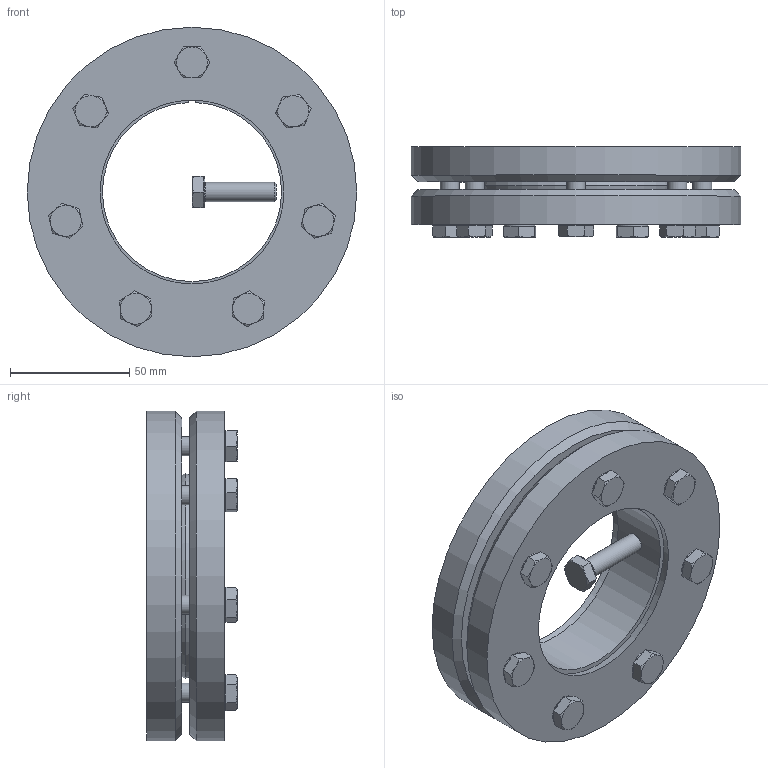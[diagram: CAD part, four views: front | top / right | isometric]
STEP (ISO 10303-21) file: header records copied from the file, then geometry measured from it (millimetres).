
FILE_DESCRIPTION( ( 'Unknown' ), '1' );
FILE_NAME( 'C:/Dokumente und Einstellungen/Sven/Desktop/homepage/cad - homepage/KBS19/KBS 19 - 75 x 138.stp', 'Unknown', ( 'Unknown' ), ( 'Unknown' ), 'XStep 1.0', 'Unknown', ' ' );
FILE_SCHEMA( ( 'automotive_design' ) );
Length unit declared in the file: millimetre
Products named in the file (3): Assem1; KBS 19 - 75 x 138; ISO 4017 - M8 x 30-N
Bounding box: 138 x 37.8 x 138 mm (x, y, z)
Volume: 610025.1 mm3; surface area: 138149.2 mm2
Topology: 10 solids, 10 shells, 274 faces, 640 edges, 394 vertices
Faces by surface type: plane 148, cone 68, cylinder 50, torus 8
Full cylindrical faces by diameter (mm): 8 x36, 13 x8, 138 x4
Entity records: 2022 total; most frequent: CARTESIAN_POINT 330, DIRECTION 312, ORIENTED_EDGE 244, AXIS2_PLACEMENT_3D 135, EDGE_CURVE 122, EDGE_LOOP 119, VERTEX_POINT 89, FACE_OUTER_BOUND 81
